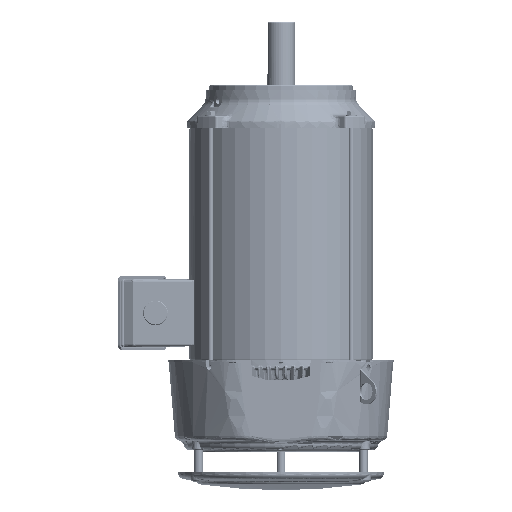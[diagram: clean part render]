
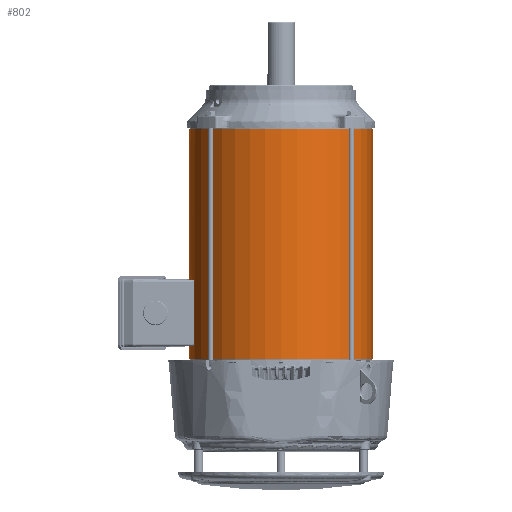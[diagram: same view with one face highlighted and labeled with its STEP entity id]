
A CAD part, front view. The second image highlights one B-rep face of the part: STEP entity #802.
In plain terms, the highlighted cylindrical face has radius 137.879 mm (diameter 275.758 mm), a partial arc.
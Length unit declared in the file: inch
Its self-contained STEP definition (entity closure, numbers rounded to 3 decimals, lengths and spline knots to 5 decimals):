
#27=DIRECTION('',(0.,0.,1.));
#28=VECTOR('',#27,13.592);
#29=CARTESIAN_POINT('',(5.4283,0.,-6.7955));
#30=LINE('',#29,#28);
#223=CARTESIAN_POINT('',(-5.28242,-1.25,-4.641));
#224=CARTESIAN_POINT('',(-5.28554,-1.23681,-4.641));
#225=CARTESIAN_POINT('',(-5.29128,-1.21212,
-4.63656));
#226=CARTESIAN_POINT('',(-5.29898,-1.17796,
-4.61703));
#227=CARTESIAN_POINT('',(-5.30441,-1.15315,
-4.58715));
#228=CARTESIAN_POINT('',(-5.30724,-1.14004,
-4.55115));
#229=CARTESIAN_POINT('',(-5.30727,-1.13988,
-4.51258));
#230=CARTESIAN_POINT('',(-5.30446,-1.15294,
-4.47626));
#231=CARTESIAN_POINT('',(-5.29913,-1.17729,
-4.44654));
#232=CARTESIAN_POINT('',(-5.29135,-1.21181,
-4.42648));
#233=CARTESIAN_POINT('',(-5.28557,-1.23669,-4.422));
#234=CARTESIAN_POINT('',(-5.28242,-1.25,-4.422));
#236=CARTESIAN_POINT('',(-5.28242,-1.25,-4.422));
#237=CARTESIAN_POINT('',(-5.27929,-1.26322,-4.422));
#238=CARTESIAN_POINT('',(-5.27334,-1.28795,
-4.42645));
#239=CARTESIAN_POINT('',(-5.26485,-1.32217,
-4.44607));
#240=CARTESIAN_POINT('',(-5.25855,-1.34692,
-4.47599));
#241=CARTESIAN_POINT('',(-5.25519,-1.35995,
-4.51191));
#242=CARTESIAN_POINT('',(-5.25514,-1.36012,
-4.55034));
#243=CARTESIAN_POINT('',(-5.25849,-1.34715,
-4.58658));
#244=CARTESIAN_POINT('',(-5.26467,-1.32286,
-4.61634));
#245=CARTESIAN_POINT('',(-5.27325,-1.2883,
-4.63649));
#246=CARTESIAN_POINT('',(-5.27926,-1.26336,-4.641));
#247=CARTESIAN_POINT('',(-5.28242,-1.25,-4.641));
#249=CARTESIAN_POINT('',(0.,0.,-6.7955));
#250=DIRECTION('',(0.,0.,1.));
#251=DIRECTION('',(-1.,0.,0.));
#252=AXIS2_PLACEMENT_3D('',#249,#250,#251);
#254=DIRECTION('',(0.,0.,1.));
#255=VECTOR('',#254,1.074);
#256=CARTESIAN_POINT('',(-5.4283,0.,-6.7955));
#257=LINE('',#256,#255);
#258=CARTESIAN_POINT('',(0.,0.,-5.7215));
#259=DIRECTION('',(0.,0.,1.));
#260=DIRECTION('',(-1.,0.,0.));
#261=AXIS2_PLACEMENT_3D('',#258,#259,#260);
#263=CARTESIAN_POINT('',(-5.37624,-0.75,-5.5915));
#264=CARTESIAN_POINT('',(-5.37624,-0.75,-5.60534));
#265=CARTESIAN_POINT('',(-5.37683,-0.74581,
-5.63165));
#266=CARTESIAN_POINT('',(-5.37937,-0.72731,
-5.66867));
#267=CARTESIAN_POINT('',(-5.38326,-0.69813,
-5.69815));
#268=CARTESIAN_POINT('',(-5.38797,-0.66084,
-5.71715));
#269=CARTESIAN_POINT('',(-5.39115,-0.63412,-5.7215));
#270=CARTESIAN_POINT('',(-5.39278,-0.62,-5.7215));
#272=DIRECTION('',(0.,0.,1.));
#273=VECTOR('',#272,2.99);
#274=CARTESIAN_POINT('',(-5.37624,-0.75,-5.5915));
#275=LINE('',#274,#273);
#276=CARTESIAN_POINT('',(-5.39278,-0.62,-2.4715));
#277=CARTESIAN_POINT('',(-5.39117,-0.63396,-2.4715));
#278=CARTESIAN_POINT('',(-5.38802,-0.66045,
-2.47576));
#279=CARTESIAN_POINT('',(-5.38333,-0.69759,
-2.49448));
#280=CARTESIAN_POINT('',(-5.37942,-0.72695,
-2.5238));
#281=CARTESIAN_POINT('',(-5.37684,-0.74573,
-2.56098));
#282=CARTESIAN_POINT('',(-5.37624,-0.75,-2.58751));
#283=CARTESIAN_POINT('',(-5.37624,-0.75,-2.6015));
#285=CARTESIAN_POINT('',(0.,0.,-2.4715));
#286=DIRECTION('',(0.,0.,1.));
#287=DIRECTION('',(-1.,0.,0.));
#288=AXIS2_PLACEMENT_3D('',#285,#286,#287);
#290=DIRECTION('',(0.,0.,1.));
#291=VECTOR('',#290,9.268);
#292=CARTESIAN_POINT('',(-5.4283,0.,-2.4715));
#293=LINE('',#292,#291);
#294=CARTESIAN_POINT('',(0.,0.,6.7965));
#295=DIRECTION('',(0.,0.,1.));
#296=DIRECTION('',(-1.,0.,0.));
#297=AXIS2_PLACEMENT_3D('',#294,#295,#296);
#481=CARTESIAN_POINT('',(-5.4283,0.,-2.4715));
#482=VERTEX_POINT('',#481);
#484=CARTESIAN_POINT('',(-5.4283,0.,-5.7215));
#486=VERTEX_POINT('',#484);
#488=VERTEX_POINT('',#223);
#489=VERTEX_POINT('',#234);
#490=CARTESIAN_POINT('',(-5.39278,-0.62,-2.4715));
#491=VERTEX_POINT('',#490);
#492=VERTEX_POINT('',#283);
#493=CARTESIAN_POINT('',(-5.37624,-0.75,-5.5915));
#494=VERTEX_POINT('',#493);
#495=VERTEX_POINT('',#270);
#555=CARTESIAN_POINT('',(5.4283,0.,-6.7955));
#556=CARTESIAN_POINT('',(5.4283,0.,6.7965));
#557=VERTEX_POINT('',#555);
#558=VERTEX_POINT('',#556);
#559=CARTESIAN_POINT('',(-5.4283,0.,-6.7955));
#560=VERTEX_POINT('',#559);
#561=CARTESIAN_POINT('',(-5.4283,0.,6.7965));
#562=VERTEX_POINT('',#561);
#773=CARTESIAN_POINT('',(0.,0.,-7.0625));
#774=DIRECTION('',(0.,0.,1.));
#775=DIRECTION('',(1.,0.,0.));
#776=AXIS2_PLACEMENT_3D('',#773,#774,#775);
#777=CYLINDRICAL_SURFACE('',#776,5.4283);
#778=ORIENTED_EDGE('',*,*,#568,.F.);
#779=ORIENTED_EDGE('',*,*,#764,.F.);
#780=ORIENTED_EDGE('',*,*,#584,.T.);
#782=ORIENTED_EDGE('',*,*,#781,.T.);
#784=ORIENTED_EDGE('',*,*,#783,.F.);
#786=ORIENTED_EDGE('',*,*,#785,.T.);
#788=ORIENTED_EDGE('',*,*,#787,.F.);
#790=ORIENTED_EDGE('',*,*,#789,.F.);
#791=ORIENTED_EDGE('',*,*,#572,.T.);
#793=ORIENTED_EDGE('',*,*,#792,.T.);
#794=EDGE_LOOP('',(#778,#779,#780,#782,#784,#786,#788,#790,#791,#793));
#795=FACE_OUTER_BOUND('',#794,.F.);
#797=ORIENTED_EDGE('',*,*,#796,.F.);
#799=ORIENTED_EDGE('',*,*,#798,.F.);
#800=EDGE_LOOP('',(#797,#799));
#801=FACE_BOUND('',#800,.F.);
#802=ADVANCED_FACE('',(#795,#801),#777,.T.);
#235=B_SPLINE_CURVE_WITH_KNOTS('',3,(#223,#224,#225,#226,#227,#228,#229,#230,
#231,#232,#233,#234),.UNSPECIFIED.,.F.,.F.,(4,1,1,1,1,1,1,1,1,4),(0.,
0.11111,0.22222,0.33333,0.44444,
0.55556,0.66667,0.77778,0.88889,1.),
.UNSPECIFIED.);
#248=B_SPLINE_CURVE_WITH_KNOTS('',3,(#236,#237,#238,#239,#240,#241,#242,#243,
#244,#245,#246,#247),.UNSPECIFIED.,.F.,.F.,(4,1,1,1,1,1,1,1,1,4),(0.,
0.11111,0.22222,0.33333,0.44444,
0.55556,0.66667,0.77778,0.88889,1.),
.UNSPECIFIED.);
#253=CIRCLE('',#252,5.4283);
#262=CIRCLE('',#261,5.4283);
#271=B_SPLINE_CURVE_WITH_KNOTS('',3,(#263,#264,#265,#266,#267,#268,#269,#270),
.UNSPECIFIED.,.F.,.F.,(4,1,1,1,1,4),(0.,0.2,0.4,0.6,0.8,1.),
.UNSPECIFIED.);
#284=B_SPLINE_CURVE_WITH_KNOTS('',3,(#276,#277,#278,#279,#280,#281,#282,#283),
.UNSPECIFIED.,.F.,.F.,(4,1,1,1,1,4),(0.,0.2,0.4,0.6,0.8,1.),
.UNSPECIFIED.);
#289=CIRCLE('',#288,5.4283);
#298=CIRCLE('',#297,5.4283);
#568=EDGE_CURVE('',#557,#558,#30,.T.);
#572=EDGE_CURVE('',#482,#562,#293,.T.);
#584=EDGE_CURVE('',#560,#486,#257,.T.);
#764=EDGE_CURVE('',#560,#557,#253,.T.);
#781=EDGE_CURVE('',#486,#495,#262,.T.);
#783=EDGE_CURVE('',#494,#495,#271,.T.);
#785=EDGE_CURVE('',#494,#492,#275,.T.);
#787=EDGE_CURVE('',#491,#492,#284,.T.);
#789=EDGE_CURVE('',#482,#491,#289,.T.);
#792=EDGE_CURVE('',#562,#558,#298,.T.);
#796=EDGE_CURVE('',#488,#489,#235,.T.);
#798=EDGE_CURVE('',#489,#488,#248,.T.);
